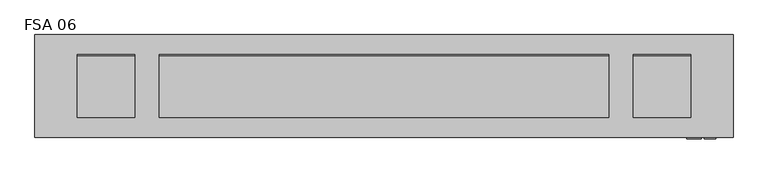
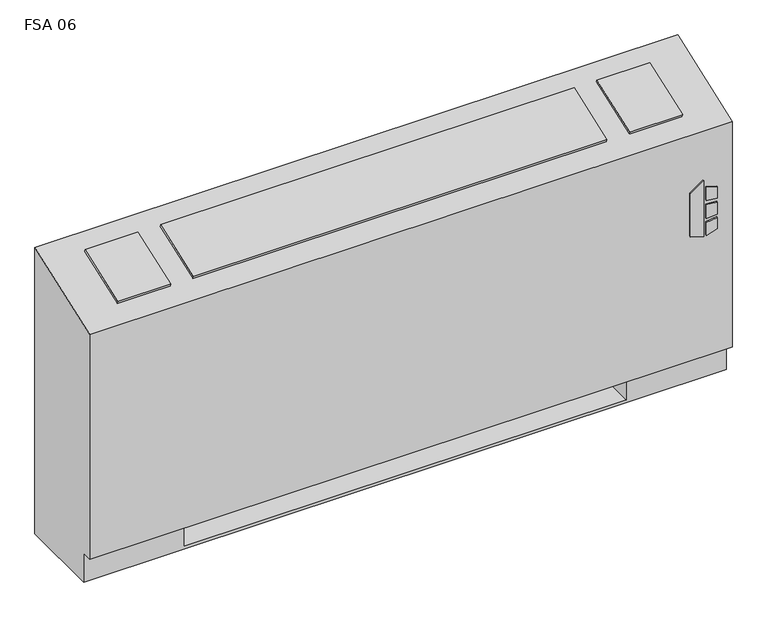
"""IFC4 building model written with IfcOpenShell, lengths in millimetres: proxy geometry, Vertical_Fan_Coil_Unit_-_FSA_-_IEC_-_4-Pipe_TS-FR_LH_2022 : FSA 06."""

from ifc_helpers import new_model, si_unit, point, frame, frame_2d, origin, place, context, project, spatial, polyline, circle_curve, trimmed, segment, composite_curve, outline, extrude, source, transform, mapped, element, save
from ifc_brep_helpers import plane_surface, revolved_surface, advanced_brep


def fsa_06_36126f74(model_context):
    return source(origin(), model_context, "Body", "SolidModel", [
        extrude(outline(polyline([(391.6086829, 823.9868862), (381.6606126, 856.1602728), (523.831537, 856.1602728), (500.8095309, 823.9868862), (391.6086829, 823.9868862)])), frame((0.0, 12.7, 0.0), z_axis=(0.0, 1.0, 0.0), x_axis=(0.0, 0.0, 1.0)), (0.0, 0.0, 1.0), 3.175),
        extrude(outline(polyline([(470.6079683, 862.9186058), (467.4055757, 889.0), (496.6344168, 889.0), (504.6988318, 862.9186058), (470.6079683, 862.9186058)])), frame((0.0, 12.7, 0.0), z_axis=(0.0, 1.0, 0.0), x_axis=(0.0, 0.0, 1.0)), (0.0, 0.0, 1.0), 3.175),
        extrude(outline(polyline([(418.7444414, 889.0), (415.0789404, 862.9186058), (381.6606126, 862.9186058), (390.2948498, 889.0), (418.7444414, 889.0)])), frame((0.0, 12.7, 0.0), z_axis=(0.0, 1.0, 0.0), x_axis=(0.0, 0.0, 1.0)), (0.0, 0.0, 1.0), 3.175),
        extrude(outline(polyline([(458.0596028, 889.0), (460.3414292, 862.9186058), (424.4038806, 862.9186058), (427.1451456, 889.0), (458.0596028, 889.0)])), frame((0.0, 12.7, 0.0), z_axis=(0.0, 1.0, 0.0), x_axis=(0.0, 0.0, 1.0)), (0.0, 0.0, 1.0), 3.175),
        extrude(outline(polyline([(806.45, 223.266), (806.45, 81.534), (685.8, 81.534), (685.8, 223.266), (806.45, 223.266)])), frame((0.0, 0.0, 327.025), z_axis=(0.0, 0.0, 1.0), x_axis=(1.0, 0.0, 0.0)), (0.0, 0.0, 1.0), 260.35),
        extrude(outline(composite_curve([segment(trimmed(circle_curve(frame_2d((-444.5, 130.175)), 9.525), [point((-454.025, 130.175))], [point((-434.975, 130.175))], False, "CARTESIAN"), True, "CONTINUOUS"), segment(trimmed(circle_curve(frame_2d((-444.5, 130.175)), 9.525), [point((-434.975, 130.175))], [point((-454.025, 130.175))], False, "CARTESIAN"), True, "CONTINUOUS")], self_intersect=False)), frame((0.0, 0.0, 101.6), z_axis=(0.0, 0.0, 1.0), x_axis=(1.0, 0.0, 0.0)), (0.0, 0.0, 1.0), 25.4),
        extrude(outline(polyline([(-546.1, 63.5), (-546.1, 196.85), (-381.0, 196.85), (-381.0, 63.5), (-546.1, 63.5)])), frame((0.0, 0.0, 127.0), z_axis=(0.0, 0.0, 1.0), x_axis=(1.0, 0.0, 0.0)), (0.0, 0.0, 1.0), 50.8),
        extrude(outline(polyline([(0.0, -146.0500001), (0.0, 0.0), (127.0, 0.0), (127.0, -146.0500001), (0.0, -146.0500001)])), frame((-528.193, 200.4217127, 714.3418685), z_axis=(0.0, -0.3396444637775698, 0.9405538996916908), x_axis=(1.0, 0.0, 0.0)), (0.0, 0.0, 1.0), 6.35),
        extrude(outline(polyline([(0.0, -146.0500001), (0.0, 0.0), (996.95, 0.0), (996.95, -146.0500001), (0.0, -146.0500001)])), frame((650.875, 63.0538156, 664.7367945), z_axis=(0.0, -0.33964446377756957, 0.9405538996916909), x_axis=(-1.0, 0.0, 0.0)), (0.0, 0.0, 1.0), 6.35),
        extrude(outline(polyline([(0.0, -146.0500001), (0.0, 0.0), (127.0, 0.0), (127.0, -146.0500001), (0.0, -146.0500001)])), frame((832.993, 63.0538156, 664.7367945), z_axis=(0.0, -0.3396444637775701, 0.9405538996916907), x_axis=(-1.0, 0.0, 0.0)), (0.0, 0.0, 1.0), 6.35),
        extrude(outline(composite_curve([segment(trimmed(circle_curve(frame_2d((107.95, 457.2)), 7.9375), [point((107.95, 465.1375))], [point((107.95, 449.2625))], False, "CARTESIAN"), True, "CONTINUOUS"), segment(trimmed(circle_curve(frame_2d((107.95, 457.2)), 7.9375), [point((107.95, 449.2625))], [point((107.95, 465.1375))], False, "CARTESIAN"), True, "CONTINUOUS")], self_intersect=False)), frame((-431.8, 0.0, 0.0), z_axis=(1.0, 0.0, 0.0), x_axis=(0.0, 1.0, 0.0)), (0.0, 0.0, 1.0), 50.8),
        extrude(outline(composite_curve([segment(trimmed(circle_curve(frame_2d((155.575, 431.8)), 7.9375), [point((155.575, 439.7375))], [point((155.575, 423.8625))], False, "CARTESIAN"), True, "CONTINUOUS"), segment(trimmed(circle_curve(frame_2d((155.575, 431.8)), 7.9375), [point((155.575, 423.8625))], [point((155.575, 439.7375))], False, "CARTESIAN"), True, "CONTINUOUS")], self_intersect=False)), frame((-431.8, 0.0, 0.0), z_axis=(1.0, 0.0, 0.0), x_axis=(0.0, 1.0, 0.0)), (0.0, 0.0, 1.0), 50.8),
        extrude(outline(composite_curve([segment(trimmed(circle_curve(frame_2d((130.175, 554.99)), 7.9502), [point((130.175, 562.9402))], [point((130.175, 547.0398))], False, "CARTESIAN"), True, "CONTINUOUS"), segment(trimmed(circle_curve(frame_2d((130.175, 554.99)), 7.9502), [point((130.175, 547.0398))], [point((130.175, 562.9402))], False, "CARTESIAN"), True, "CONTINUOUS")], self_intersect=False)), frame((-431.8, 0.0, 0.0), z_axis=(1.0, 0.0, 0.0), x_axis=(0.0, 1.0, 0.0)), (0.0, 0.0, 1.0), 50.8),
        extrude(outline(composite_curve([segment(trimmed(circle_curve(frame_2d((53.975, 416.56)), 7.9502), [point((53.975, 424.5102))], [point((53.975, 408.6098))], False, "CARTESIAN"), True, "CONTINUOUS"), segment(trimmed(circle_curve(frame_2d((53.975, 416.56)), 7.9502), [point((53.975, 408.6098))], [point((53.975, 424.5102))], False, "CARTESIAN"), True, "CONTINUOUS")], self_intersect=False)), frame((-431.8, 0.0, 0.0), z_axis=(1.0, 0.0, 0.0), x_axis=(0.0, 1.0, 0.0)), (0.0, 0.0, 1.0), 50.8),
        advanced_brep(
        [(-622.3, 244.475, 0.0), (927.1, 244.475, 0.0), (927.1, 41.275, 0.0), (-622.3, 41.275, 0.0), (-622.3, 244.475, 730.25), (927.1, 244.475, 730.25), (685.8, 244.475, 73.025), (914.4, 244.475, 73.025), (914.4, 244.475, 654.05), (685.8, 244.475, 654.05), (685.8, 244.475, 414.8650565), (714.375, 244.475, 414.8650565), (714.375, 244.475, 385.2349435), (685.8, 244.475, 385.2349435), (685.8, 244.475, 287.3375), (714.375, 244.475, 287.3375), (714.375, 244.475, 258.7625), (685.8, 244.475, 258.7625), (685.8, 244.475, 141.2875), (714.375, 244.475, 141.2875), (714.375, 244.475, 112.7125), (685.8, 244.475, 112.7125), (-381.0, 244.475, 654.05), (-609.6, 244.475, 654.05), (-609.6, 244.475, 73.025), (-381.0, 244.475, 73.025), (-381.0, 244.475, 112.7125), (-409.575, 244.475, 112.7125), (-409.575, 244.475, 141.2875), (-381.0, 244.475, 141.2875), (-381.0, 244.475, 258.7625), (-409.575, 244.475, 258.7625), (-409.575, 244.475, 287.3375), (-381.0, 244.475, 287.3375), (-381.0, 244.475, 385.2349435), (-409.575, 244.475, 385.2349435), (-409.575, 244.475, 414.8650565), (-381.0, 244.475, 414.8650565), (704.0626, 244.475, 127.0), (692.9374, 244.475, 127.0), (704.0626, 244.475, 400.05), (692.9374, 244.475, 400.05), (704.0626, 244.475, 273.05), (692.9374, 244.475, 273.05), (-388.1374, 244.475, 127.0), (-399.2626, 244.475, 127.0), (-388.1374, 244.475, 273.05), (-399.2626, 244.475, 273.05), (-388.1374, 244.475, 400.05), (-399.2626, 244.475, 400.05), (-622.3, 41.275, 73.025), (-622.3, 15.875, 73.025), (-622.3, 15.875, 647.7), (927.1, 15.875, 73.025), (927.1, 15.875, 647.7), (927.1, 41.275, 73.025), (-381.0, 41.275, 73.025), (-381.0, 225.425, 73.025), (685.8, 225.425, 73.025), (685.8, 41.275, 73.025), (685.8, 41.275, 6.35), (-381.0, 41.275, 6.35), (685.8, 41.275, 654.05), (914.4, 41.275, 654.05), (914.4, 41.275, 73.025), (685.8, 41.275, 73.025), (-381.0, 41.275, 654.05), (-381.0, 41.275, 73.025), (-609.6, 41.275, 73.025), (-609.6, 41.275, 654.05), (685.8, 225.425, 73.025), (685.8, 238.125, 112.7125), (685.8, 238.125, 141.2875), (685.8, 238.125, 258.7625), (685.8, 238.125, 287.3375), (685.8, 238.125, 385.2349435), (685.8, 238.125, 414.8650565), (-381.0, 225.425, 73.025), (-381.0, 238.125, 414.8650565), (-381.0, 238.125, 385.2349435), (-381.0, 238.125, 287.3375), (-381.0, 238.125, 258.7625), (-381.0, 238.125, 141.2875), (-381.0, 238.125, 112.7125), (-381.0, 225.425, 6.35), (685.8, 225.425, 6.35), (714.375, 238.125, 112.7125), (714.375, 238.125, 141.2875), (692.9374, 238.125, 127.0), (704.0626, 238.125, 127.0), (714.375, 238.125, 258.7625), (714.375, 238.125, 287.3375), (692.9374, 238.125, 273.05), (704.0626, 238.125, 273.05), (714.375, 238.125, 385.2349435), (714.375, 238.125, 414.8650565), (692.9374, 238.125, 400.05), (704.0626, 238.125, 400.05), (-409.575, 238.125, 141.2875), (-409.575, 238.125, 112.7125), (-399.2626, 238.125, 127.0), (-388.1374, 238.125, 127.0), (-409.575, 238.125, 287.3375), (-409.575, 238.125, 258.7625), (-399.2626, 238.125, 273.05), (-388.1374, 238.125, 273.05), (-409.575, 238.125, 414.8650565), (-409.575, 238.125, 385.2349435), (-399.2626, 238.125, 400.05), (-388.1374, 238.125, 400.05)],
        [
            (0, 1),
            (1, 2),
            (2, 3),
            (3, 0),
            (0, 4),
            (4, 5),
            (5, 1),
            (6, 7),
            (7, 8),
            (8, 9),
            (9, 10),
            (10, 11),
            (11, 12),
            (12, 13),
            (13, 14),
            (14, 15),
            (15, 16),
            (16, 17),
            (17, 18),
            (18, 19),
            (19, 20),
            (20, 21),
            (21, 6),
            (22, 23),
            (23, 24),
            (24, 25),
            (25, 26),
            (26, 27),
            (27, 28),
            (28, 29),
            (29, 30),
            (30, 31),
            (31, 32),
            (32, 33),
            (33, 34),
            (34, 35),
            (35, 36),
            (36, 37),
            (37, 22),
            (38, 39, circle_curve(frame((698.5, 244.475, 127.0), z_axis=(0.0, -1.0, 0.0), x_axis=(-1.0, 0.0, 0.0)), 5.5626)),
            (39, 38, circle_curve(frame((698.5, 244.475, 127.0), z_axis=(0.0, -1.0, 0.0), x_axis=(-1.0, 0.0, 0.0)), 5.5626)),
            (40, 41, circle_curve(frame((698.5, 244.475, 400.05), z_axis=(0.0, -1.0, 0.0), x_axis=(-1.0, 0.0, 0.0)), 5.5626)),
            (41, 40, circle_curve(frame((698.5, 244.475, 400.05), z_axis=(0.0, -1.0, 0.0), x_axis=(-1.0, 0.0, 0.0)), 5.5626)),
            (42, 43, circle_curve(frame((698.5, 244.475, 273.05), z_axis=(0.0, -1.0, 0.0), x_axis=(-1.0, 0.0, 0.0)), 5.5626)),
            (43, 42, circle_curve(frame((698.5, 244.475, 273.05), z_axis=(0.0, -1.0, 0.0), x_axis=(-1.0, 0.0, 0.0)), 5.5626)),
            (44, 45, circle_curve(frame((-393.7, 244.475, 127.0), z_axis=(0.0, -1.0, 0.0), x_axis=(-1.0, 0.0, 0.0)), 5.5626)),
            (45, 44, circle_curve(frame((-393.7, 244.475, 127.0), z_axis=(0.0, -1.0, 0.0), x_axis=(-1.0, 0.0, 0.0)), 5.5626)),
            (46, 47, circle_curve(frame((-393.7, 244.475, 273.05), z_axis=(0.0, -1.0, 0.0), x_axis=(-1.0, 0.0, 0.0)), 5.5626)),
            (47, 46, circle_curve(frame((-393.7, 244.475, 273.05), z_axis=(0.0, -1.0, 0.0), x_axis=(-1.0, 0.0, 0.0)), 5.5626)),
            (48, 49, circle_curve(frame((-393.7, 244.475, 400.05), z_axis=(0.0, -1.0, 0.0), x_axis=(-1.0, 0.0, 0.0)), 5.5626)),
            (49, 48, circle_curve(frame((-393.7, 244.475, 400.05), z_axis=(0.0, -1.0, 0.0), x_axis=(-1.0, 0.0, 0.0)), 5.5626)),
            (3, 50),
            (50, 51),
            (51, 52),
            (52, 4),
            (51, 53),
            (53, 54),
            (54, 52),
            (5, 54),
            (53, 55),
            (55, 2),
            (50, 56),
            (56, 57),
            (57, 58),
            (58, 59),
            (59, 55),
            (59, 60),
            (60, 61),
            (61, 56),
            (62, 63),
            (63, 64),
            (64, 65),
            (65, 62),
            (66, 67),
            (67, 68),
            (68, 69),
            (69, 66),
            (65, 70),
            (70, 6),
            (21, 71),
            (71, 72),
            (72, 18),
            (17, 73),
            (73, 74),
            (74, 14),
            (13, 75),
            (75, 76),
            (76, 10),
            (9, 62),
            (64, 7),
            (63, 8),
            (69, 23),
            (22, 66),
            (68, 24),
            (67, 77),
            (77, 25),
            (37, 78),
            (78, 79),
            (79, 34),
            (33, 80),
            (80, 81),
            (81, 30),
            (29, 82),
            (82, 83),
            (83, 26),
            (57, 84),
            (84, 85),
            (85, 58),
            (85, 60),
            (84, 61),
            (71, 86),
            (86, 87),
            (87, 72),
            (88, 89, circle_curve(frame((698.5, 238.125, 127.0), z_axis=(0.0, 1.0, 0.0), x_axis=(-1.0, 0.0, 0.0)), 5.5626)),
            (89, 88, circle_curve(frame((698.5, 238.125, 127.0), z_axis=(0.0, 1.0, 0.0), x_axis=(-1.0, 0.0, 0.0)), 5.5626)),
            (73, 90),
            (90, 91),
            (91, 74),
            (92, 93, circle_curve(frame((698.5, 238.125, 273.05), z_axis=(0.0, 1.0, 0.0), x_axis=(-1.0, 0.0, 0.0)), 5.5626)),
            (93, 92, circle_curve(frame((698.5, 238.125, 273.05), z_axis=(0.0, 1.0, 0.0), x_axis=(-1.0, 0.0, 0.0)), 5.5626)),
            (75, 94),
            (94, 95),
            (95, 76),
            (96, 97, circle_curve(frame((698.5, 238.125, 400.05), z_axis=(0.0, 1.0, 0.0), x_axis=(-1.0, 0.0, 0.0)), 5.5626)),
            (97, 96, circle_curve(frame((698.5, 238.125, 400.05), z_axis=(0.0, 1.0, 0.0), x_axis=(-1.0, 0.0, 0.0)), 5.5626)),
            (98, 99),
            (99, 83),
            (82, 98),
            (100, 101, circle_curve(frame((-393.7, 238.125, 127.0), z_axis=(0.0, 1.0, 0.0), x_axis=(-1.0, 0.0, 0.0)), 5.5626)),
            (101, 100, circle_curve(frame((-393.7, 238.125, 127.0), z_axis=(0.0, 1.0, 0.0), x_axis=(-1.0, 0.0, 0.0)), 5.5626)),
            (102, 103),
            (103, 81),
            (80, 102),
            (104, 105, circle_curve(frame((-393.7, 238.125, 273.05), z_axis=(0.0, 1.0, 0.0), x_axis=(-1.0, 0.0, 0.0)), 5.5626)),
            (105, 104, circle_curve(frame((-393.7, 238.125, 273.05), z_axis=(0.0, 1.0, 0.0), x_axis=(-1.0, 0.0, 0.0)), 5.5626)),
            (106, 107),
            (107, 79),
            (78, 106),
            (108, 109, circle_curve(frame((-393.7, 238.125, 400.05), z_axis=(0.0, 1.0, 0.0), x_axis=(-1.0, 0.0, 0.0)), 5.5626)),
            (109, 108, circle_curve(frame((-393.7, 238.125, 400.05), z_axis=(0.0, 1.0, 0.0), x_axis=(-1.0, 0.0, 0.0)), 5.5626)),
            (87, 19),
            (86, 20),
            (91, 15),
            (90, 16),
            (95, 11),
            (94, 12),
            (28, 98),
            (99, 27),
            (32, 102),
            (103, 31),
            (36, 106),
            (107, 35),
            (88, 39),
            (38, 89),
            (96, 41),
            (40, 97),
            (92, 43),
            (42, 93),
            (100, 45),
            (44, 101),
            (104, 47),
            (46, 105),
            (108, 49),
            (48, 109),
        ],
        [
            plane_surface(frame((-622.3, 244.475, 0.0), z_axis=(0.0, 0.0, -1.0), x_axis=(1.0, 0.0, 0.0))),
            plane_surface(frame((927.1, 244.475, 730.25), z_axis=(0.0, 1.0, 0.0), x_axis=(0.0, 0.0, -1.0))),
            plane_surface(frame((-622.3, 244.475, 730.25), z_axis=(-1.0, 0.0, 0.0), x_axis=(0.0, 0.0, -1.0))),
            plane_surface(frame((-622.3, 15.875, 730.25), z_axis=(0.0, -1.0, 0.0), x_axis=(0.0, 0.0, -1.0))),
            plane_surface(frame((927.1, 15.875, 730.25), z_axis=(1.0, 0.0, 0.0), x_axis=(0.0, 0.0, -1.0))),
            plane_surface(frame((-622.3, 15.875, 73.025), z_axis=(0.0, 0.0, -1.0), x_axis=(1.0, 0.0, 0.0))),
            plane_surface(frame((-622.3, 41.275, 73.025), z_axis=(0.0, -1.0, 0.0), x_axis=(1.0, 0.0, 0.0))),
            plane_surface(frame((685.8, 41.275, 654.05), z_axis=(0.0, 1.0, 0.0), x_axis=(0.0, 0.0, -1.0))),
            plane_surface(frame((685.8, 41.275, 654.05), z_axis=(1.0, 0.0, 0.0), x_axis=(0.0, 1.0, 0.0))),
            plane_surface(frame((685.8, 41.275, 73.025), z_axis=(0.0, 0.0, 1.0), x_axis=(0.0, 1.0, 0.0))),
            plane_surface(frame((914.4, 41.275, 73.025), z_axis=(-1.0, 0.0, 0.0), x_axis=(0.0, 1.0, 0.0))),
            plane_surface(frame((914.4, 41.275, 654.05), z_axis=(0.0, 0.0, -1.0), x_axis=(0.0, 1.0, 0.0))),
            plane_surface(frame((-381.0, 41.275, 654.05), z_axis=(0.0, 0.0, -1.0), x_axis=(0.0, 1.0, 0.0))),
            plane_surface(frame((-609.6, 41.275, 654.05), z_axis=(1.0, 0.0, 0.0), x_axis=(0.0, 1.0, 0.0))),
            plane_surface(frame((-609.6, 41.275, 73.025), z_axis=(0.0, 0.0, 1.0), x_axis=(0.0, 1.0, 0.0))),
            plane_surface(frame((-381.0, 41.275, 73.025), z_axis=(-1.0, 0.0, 0.0), x_axis=(0.0, 1.0, 0.0))),
            plane_surface(frame((685.8, 225.425, 73.025), z_axis=(0.0, -1.0, 0.0), x_axis=(0.0, 0.0, -1.0))),
            plane_surface(frame((685.8, 225.425, 73.025), z_axis=(-1.0, 0.0, 0.0), x_axis=(0.0, -1.0, 0.0))),
            plane_surface(frame((685.8, 225.425, 6.35), z_axis=(0.0, 0.0, 1.0), x_axis=(0.0, -1.0, 0.0))),
            plane_surface(frame((-381.0, 225.425, 6.35), z_axis=(1.0, 0.0, 0.0), x_axis=(0.0, -1.0, 0.0))),
            plane_surface(frame((714.375, 238.125, 141.2875), z_axis=(0.0, -1.0, 0.0), x_axis=(-1.0, 0.0, 0.0))),
            plane_surface(frame((685.8, 244.475, 141.2875), z_axis=(0.0, 0.0, 1.0), x_axis=(0.0, -1.0, 0.0))),
            plane_surface(frame((714.375, 244.475, 141.2875), z_axis=(1.0, 0.0, 0.0), x_axis=(0.0, -1.0, 0.0))),
            plane_surface(frame((714.375, 244.475, 112.7125), z_axis=(0.0, 0.0, -1.0), x_axis=(0.0, -1.0, 0.0))),
            plane_surface(frame((685.8, 244.475, 287.3375), z_axis=(0.0, 0.0, 1.0), x_axis=(0.0, -1.0, 0.0))),
            plane_surface(frame((714.375, 244.475, 287.3375), z_axis=(1.0, 0.0, 0.0), x_axis=(0.0, -1.0, 0.0))),
            plane_surface(frame((714.375, 244.475, 258.7625), z_axis=(0.0, 0.0, -1.0), x_axis=(0.0, -1.0, 0.0))),
            plane_surface(frame((685.8, 244.475, 414.8650565), z_axis=(0.0, 0.0, 1.0), x_axis=(0.0, -1.0, 0.0))),
            plane_surface(frame((714.375, 244.475, 414.8650565), z_axis=(1.0, 0.0, 0.0), x_axis=(0.0, -1.0, 0.0))),
            plane_surface(frame((714.375, 244.475, 385.2349435), z_axis=(0.0, 0.0, -1.0), x_axis=(0.0, -1.0, 0.0))),
            plane_surface(frame((-409.575, 244.475, 141.2875), z_axis=(0.0, 0.0, 1.0), x_axis=(0.0, -1.0, 0.0))),
            plane_surface(frame((-381.0, 244.475, 112.7125), z_axis=(0.0, 0.0, -1.0), x_axis=(0.0, -1.0, 0.0))),
            plane_surface(frame((-409.575, 244.475, 112.7125), z_axis=(-1.0, 0.0, 0.0), x_axis=(0.0, -1.0, 0.0))),
            plane_surface(frame((-409.575, 244.475, 287.3375), z_axis=(0.0, 0.0, 1.0), x_axis=(0.0, -1.0, 0.0))),
            plane_surface(frame((-381.0, 244.475, 258.7625), z_axis=(0.0, 0.0, -1.0), x_axis=(0.0, -1.0, 0.0))),
            plane_surface(frame((-409.575, 244.475, 258.7625), z_axis=(-1.0, 0.0, 0.0), x_axis=(0.0, -1.0, 0.0))),
            plane_surface(frame((-409.575, 244.475, 414.8650565), z_axis=(0.0, 0.0, 1.0), x_axis=(0.0, -1.0, 0.0))),
            plane_surface(frame((-381.0, 244.475, 385.2349435), z_axis=(0.0, 0.0, -1.0), x_axis=(0.0, -1.0, 0.0))),
            plane_surface(frame((-409.575, 244.475, 385.2349435), z_axis=(-1.0, 0.0, 0.0), x_axis=(0.0, -1.0, 0.0))),
            revolved_surface(polyline([(692.9374, 238.125, 127.0), (692.9374, 244.475, 127.0)]), (698.5, 244.475, 127.0), (0.0, -1.0, 0.0)),
            revolved_surface(polyline([(692.9374, 238.125, 400.05), (692.9374, 244.475, 400.05)]), (698.5, 244.475, 400.05), (0.0, -1.0, 0.0)),
            revolved_surface(polyline([(692.9374, 238.125, 273.05), (692.9374, 244.475, 273.05)]), (698.5, 244.475, 273.05), (0.0, -1.0, 0.0)),
            revolved_surface(polyline([(-399.26259999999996, 238.125, 127.0), (-399.26259999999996, 244.475, 127.0)]), (-393.7, 244.475, 127.0), (0.0, -1.0, 0.0)),
            revolved_surface(polyline([(-399.26259999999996, 238.125, 273.05), (-399.26259999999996, 244.475, 273.05)]), (-393.7, 244.475, 273.05), (0.0, -1.0, 0.0)),
            revolved_surface(polyline([(-399.26259999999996, 238.125, 400.05), (-399.26259999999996, 244.475, 400.05)]), (-393.7, 244.475, 400.05), (0.0, -1.0, 0.0)),
            plane_surface(frame((-622.3, 244.475, 730.25), z_axis=(0.0, -0.33964446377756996, 0.9405538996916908), x_axis=(1.0, 0.0, 0.0))),
        ],
        [
            (0, [[1, 2, 3, 4]]),
            (1, [[-1, 5, 6, 7], [8, 9, 10, 11, 12, 13, 14, 15, 16, 17, 18, 19, 20, 21, 22, 23], [24, 25, 26, 27, 28, 29, 30, 31, 32, 33, 34, 35, 36, 37, 38, 39], [40, 41], [42, 43], [44, 45], [46, 47], [48, 49], [50, 51]]),
            (2, [[-5, -4, 52, 53, 54, 55]]),
            (3, [[56, 57, 58, -54]]),
            (4, [[-7, 59, -57, 60, 61, -2]]),
            (5, [[-53, 62, 63, 64, 65, 66, -60, -56]]),
            (6, [[-3, -61, -66, 67, 68, 69, -62, -52]]),
            (7, [[70, 71, 72, 73]]),
            (7, [[74, 75, 76, 77]]),
            (8, [[-73, 78, 79, -23, 80, 81, 82, -19, 83, 84, 85, -15, 86, 87, 88, -11, 89]]),
            (9, [[-72, 90, -8, -79, -78]]),
            (10, [[-71, 91, -9, -90]]),
            (11, [[-70, -89, -10, -91]]),
            (12, [[-77, 92, -24, 93]]),
            (13, [[-76, 94, -25, -92]]),
            (14, [[-75, 95, 96, -26, -94]]),
            (15, [[-74, -93, -39, 97, 98, 99, -35, 100, 101, 102, -31, 103, 104, 105, -27, -96, -95]]),
            (16, [[-64, 106, 107, 108]]),
            (17, [[-108, 109, -67, -65]]),
            (18, [[-107, 110, -68, -109]]),
            (19, [[-106, -63, -69, -110]]),
            (20, [[111, 112, 113, -81], [114, 115]]),
            (20, [[116, 117, 118, -84], [119, 120]]),
            (20, [[121, 122, 123, -87], [124, 125]]),
            (20, [[126, 127, -104, 128], [129, 130]]),
            (20, [[131, 132, -101, 133], [134, 135]]),
            (20, [[136, 137, -98, 138], [139, 140]]),
            (21, [[-113, 141, -20, -82]]),
            (22, [[-112, 142, -21, -141]]),
            (23, [[-111, -80, -22, -142]]),
            (24, [[-118, 143, -16, -85]]),
            (25, [[-117, 144, -17, -143]]),
            (26, [[-116, -83, -18, -144]]),
            (27, [[-123, 145, -12, -88]]),
            (28, [[-122, 146, -13, -145]]),
            (29, [[-121, -86, -14, -146]]),
            (30, [[-128, -103, -30, 147]]),
            (31, [[-127, 148, -28, -105]]),
            (32, [[-126, -147, -29, -148]]),
            (33, [[-133, -100, -34, 149]]),
            (34, [[-132, 150, -32, -102]]),
            (35, [[-131, -149, -33, -150]]),
            (36, [[-138, -97, -38, 151]]),
            (37, [[-137, 152, -36, -99]]),
            (38, [[-136, -151, -37, -152]]),
            (39, [[153, -40, 154, -114]]),
            (39, [[-153, -115, -154, -41]]),
            (40, [[155, -42, 156, -124]]),
            (40, [[-155, -125, -156, -43]]),
            (41, [[157, -44, 158, -119]]),
            (41, [[-157, -120, -158, -45]]),
            (42, [[159, -46, 160, -129]]),
            (42, [[-159, -130, -160, -47]]),
            (43, [[161, -48, 162, -134]]),
            (43, [[-161, -135, -162, -49]]),
            (44, [[163, -50, 164, -139]]),
            (44, [[-163, -140, -164, -51]]),
            (45, [[-6, -55, -58, -59]]),
        ],
    ),
    ])


if __name__ == "__main__":
    model = new_model("IFC4")
    model_context = context("Model", 3, world=origin())
    ifc_project = project(units=[si_unit("LENGTHUNIT", "METRE", prefix="MILLI")], contexts=[model_context])
    site = spatial("IfcSite", under=ifc_project)
    building = spatial("IfcBuilding", under=site)
    placement = place(None, origin())
    fsa_06_shape = fsa_06_36126f74(model_context)
    element("IfcBuildingElementProxy", 1, Name="Vertical_Fan_Coil_Unit_-_FSA_-_IEC_-_4-Pipe_TS-FR_LH_2022 : FSA 06", ObjectType="Vertical_Fan_Coil_Unit_-_FSA_-_IEC_-_4-Pipe_TS-FR_LH_2022 : FSA 06", at=placement, inside=building, context=model_context, shape_type="MappedRepresentation", body=[
        mapped(fsa_06_shape, transform((0.0, 0.0, 0.0), x_axis=(1.0, 0.0, 0.0), y_axis=(0.0, 1.0, 0.0), z_axis=(0.0, 0.0, 1.0))),
    ])
    save(model, "model.ifc")
